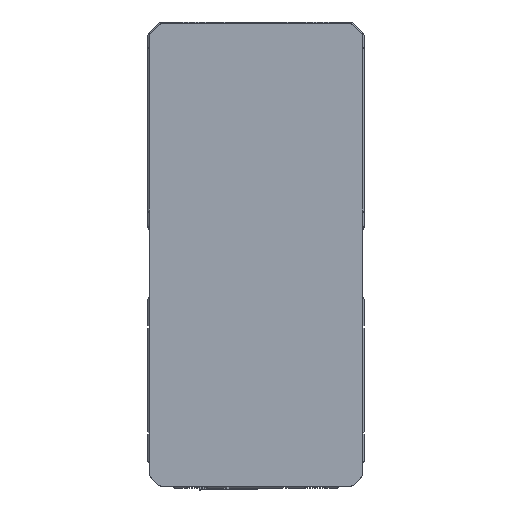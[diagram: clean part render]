
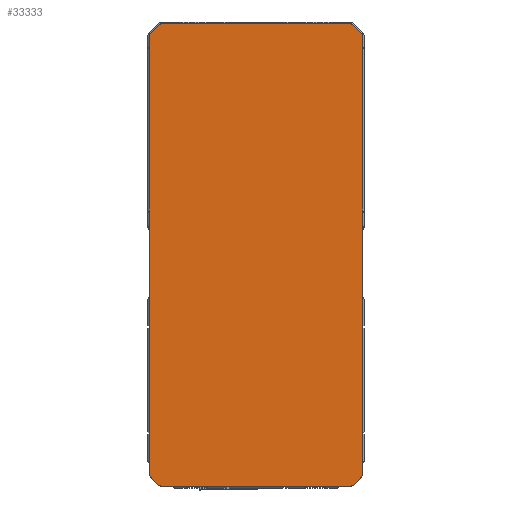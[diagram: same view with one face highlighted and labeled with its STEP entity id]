
A CAD part, top view. The second image highlights one B-rep face of the part: STEP entity #33333.
In plain terms, the highlighted planar face has unit normal (0, 0, 1).
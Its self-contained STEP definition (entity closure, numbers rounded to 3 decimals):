
#358 = AXIS2_PLACEMENT_3D ( 'NONE', #18170, #39977, #21312 ) ;
#555 = ORIENTED_EDGE ( 'NONE', *, *, #14562, .T. ) ;
#882 = CARTESIAN_POINT ( 'NONE',  ( 29.139, 31.561, 494. ) ) ;
#1141 = AXIS2_PLACEMENT_3D ( 'NONE', #37150, #18468, #40286 ) ;
#1483 = EDGE_CURVE ( 'NONE', #32467, #40147, #16552, .T. ) ;
#1715 = DIRECTION ( 'NONE',  ( 1., 0., 0. ) ) ;
#2701 = ORIENTED_EDGE ( 'NONE', *, *, #20682, .T. ) ;
#2819 = VERTEX_POINT ( 'NONE', #3590 ) ;
#2978 = ORIENTED_EDGE ( 'NONE', *, *, #13076, .T. ) ;
#3040 = VERTEX_POINT ( 'NONE', #11038 ) ;
#3586 = LINE ( 'NONE', #14091, #10879 ) ;
#3590 = CARTESIAN_POINT ( 'NONE',  ( 29.139, -106.561, 494. ) ) ;
#5162 = DIRECTION ( 'NONE',  ( 0., 0., 1. ) ) ;
#5273 = VECTOR ( 'NONE', #22670, 1000. ) ;
#6024 = CARTESIAN_POINT ( 'NONE',  ( 28.079, 32., 494. ) ) ;
#6339 = EDGE_CURVE ( 'NONE', #37011, #10517, #29163, .T. ) ;
#6520 = VERTEX_POINT ( 'NONE', #8067 ) ;
#6758 = CARTESIAN_POINT ( 'NONE',  ( 29.139, 31.561, 494. ) ) ;
#7453 = DIRECTION ( 'NONE',  ( -0.707, -0.707, 0. ) ) ;
#7611 = VECTOR ( 'NONE', #32545, 1000. ) ;
#8067 = CARTESIAN_POINT ( 'NONE',  ( -28.079, -107., 494. ) ) ;
#9096 = EDGE_CURVE ( 'NONE', #40147, #37290, #3586, .T. ) ;
#9152 = CARTESIAN_POINT ( 'NONE',  ( 30.5, 28.079, 494. ) ) ;
#9214 = CARTESIAN_POINT ( 'NONE',  ( -31.561, -104.139, 494. ) ) ;
#9435 = EDGE_LOOP ( 'NONE', ( #36574, #2978, #2701, #26755, #14494, #9847, #22151, #28818, #31237, #28825, #9764, #12918, #24670, #11175, #555, #32422 ) ) ;
#9501 = CIRCLE ( 'NONE', #22562, 1.5 ) ;
#9764 = ORIENTED_EDGE ( 'NONE', *, *, #1483, .T. ) ;
#9847 = ORIENTED_EDGE ( 'NONE', *, *, #22003, .T. ) ;
#9971 = VECTOR ( 'NONE', #16260, 1000. ) ;
#10037 = CARTESIAN_POINT ( 'NONE',  ( -28.079, 32., 494. ) ) ;
#10517 = VERTEX_POINT ( 'NONE', #6758 ) ;
#10549 = CARTESIAN_POINT ( 'NONE',  ( -31.561, 29.139, 494. ) ) ;
#10879 = VECTOR ( 'NONE', #17173, 1000. ) ;
#11038 = CARTESIAN_POINT ( 'NONE',  ( -32., -103.079, 494. ) ) ;
#11086 = DIRECTION ( 'NONE',  ( 0., 0., 1. ) ) ;
#11175 = ORIENTED_EDGE ( 'NONE', *, *, #6339, .T. ) ;
#11248 = CIRCLE ( 'NONE', #29746, 1.5 ) ;
#11504 = DIRECTION ( 'NONE',  ( 0., 0., 1. ) ) ;
#11831 = DIRECTION ( 'NONE',  ( 0., 0., 1. ) ) ;
#12185 = AXIS2_PLACEMENT_3D ( 'NONE', #30142, #11504, #33302 ) ;
#12326 = DIRECTION ( 'NONE',  ( -1., 0., 0. ) ) ;
#12725 = VERTEX_POINT ( 'NONE', #33633 ) ;
#12918 = ORIENTED_EDGE ( 'NONE', *, *, #9096, .T. ) ;
#13032 = EDGE_CURVE ( 'NONE', #30385, #3040, #33443, .T. ) ;
#13076 = EDGE_CURVE ( 'NONE', #26069, #29122, #32466, .T. ) ;
#13802 = DIRECTION ( 'NONE',  ( -1., 0., 0. ) ) ;
#14091 = CARTESIAN_POINT ( 'NONE',  ( 32., 28.079, 494. ) ) ;
#14494 = ORIENTED_EDGE ( 'NONE', *, *, #16470, .T. ) ;
#14562 = EDGE_CURVE ( 'NONE', #10517, #18940, #9501, .T. ) ;
#14965 = AXIS2_PLACEMENT_3D ( 'NONE', #29733, #11086, #32881 ) ;
#15894 = AXIS2_PLACEMENT_3D ( 'NONE', #39022, #20356, #1715 ) ;
#16260 = DIRECTION ( 'NONE',  ( 0.707, 0.707, 0. ) ) ;
#16470 = EDGE_CURVE ( 'NONE', #3040, #28337, #31397, .T. ) ;
#16552 = CIRCLE ( 'NONE', #358, 1.5 ) ;
#16578 = CARTESIAN_POINT ( 'NONE',  ( 32., 28.079, 494. ) ) ;
#16737 = CARTESIAN_POINT ( 'NONE',  ( -32., 28.079, 494. ) ) ;
#16780 = PLANE ( 'NONE',  #28867 ) ;
#17173 = DIRECTION ( 'NONE',  ( 0., 1., 0. ) ) ;
#18170 = CARTESIAN_POINT ( 'NONE',  ( 30.5, -103.079, 494. ) ) ;
#18468 = DIRECTION ( 'NONE',  ( 0., 0., 1. ) ) ;
#18940 = VERTEX_POINT ( 'NONE', #6024 ) ;
#20356 = DIRECTION ( 'NONE',  ( 0., 0., 1. ) ) ;
#20682 = EDGE_CURVE ( 'NONE', #29122, #30385, #34497, .T. ) ;
#20708 = AXIS2_PLACEMENT_3D ( 'NONE', #9152, #30967, #12326 ) ;
#20804 = CARTESIAN_POINT ( 'NONE',  ( -32., 28.079, 494. ) ) ;
#21312 = DIRECTION ( 'NONE',  ( 1., 0., 0. ) ) ;
#22003 = EDGE_CURVE ( 'NONE', #28337, #34954, #38656, .T. ) ;
#22151 = ORIENTED_EDGE ( 'NONE', *, *, #25694, .T. ) ;
#22175 = EDGE_CURVE ( 'NONE', #18940, #37209, #24509, .T. ) ;
#22562 = AXIS2_PLACEMENT_3D ( 'NONE', #30475, #11831, #33618 ) ;
#22575 = DIRECTION ( 'NONE',  ( -1., 0., 0. ) ) ;
#22670 = DIRECTION ( 'NONE',  ( -0.707, 0.707, 0. ) ) ;
#23826 = CARTESIAN_POINT ( 'NONE',  ( 28.079, -105.5, 494. ) ) ;
#24208 = LINE ( 'NONE', #29424, #7611 ) ;
#24509 = LINE ( 'NONE', #34990, #40091 ) ;
#24670 = ORIENTED_EDGE ( 'NONE', *, *, #39181, .T. ) ;
#24744 = CIRCLE ( 'NONE', #15894, 1.5 ) ;
#25176 = FACE_OUTER_BOUND ( 'NONE', #9435, .T. ) ;
#25694 = EDGE_CURVE ( 'NONE', #34954, #6520, #24744, .T. ) ;
#26069 = VERTEX_POINT ( 'NONE', #35218 ) ;
#26119 = VECTOR ( 'NONE', #38511, 1000. ) ;
#26517 = CARTESIAN_POINT ( 'NONE',  ( -29.139, -106.561, 494. ) ) ;
#26755 = ORIENTED_EDGE ( 'NONE', *, *, #13032, .T. ) ;
#26919 = DIRECTION ( 'NONE',  ( -1., 0., 0. ) ) ;
#27882 = DIRECTION ( 'NONE',  ( 0.707, -0.707, 0. ) ) ;
#28001 = CARTESIAN_POINT ( 'NONE',  ( 31.561, -104.139, 494. ) ) ;
#28337 = VERTEX_POINT ( 'NONE', #34340 ) ;
#28818 = ORIENTED_EDGE ( 'NONE', *, *, #33344, .T. ) ;
#28825 = ORIENTED_EDGE ( 'NONE', *, *, #34314, .T. ) ;
#28867 = AXIS2_PLACEMENT_3D ( 'NONE', #29288, #32426, #13802 ) ;
#29122 = VERTEX_POINT ( 'NONE', #10549 ) ;
#29163 = LINE ( 'NONE', #882, #5273 ) ;
#29288 = CARTESIAN_POINT ( 'NONE',  ( -28.079, 30.5, 494. ) ) ;
#29424 = CARTESIAN_POINT ( 'NONE',  ( -28.079, -107., 494. ) ) ;
#29733 = CARTESIAN_POINT ( 'NONE',  ( -30.5, 28.079, 494. ) ) ;
#29746 = AXIS2_PLACEMENT_3D ( 'NONE', #23826, #5162, #26919 ) ;
#29914 = CARTESIAN_POINT ( 'NONE',  ( 32., -103.079, 494. ) ) ;
#30142 = CARTESIAN_POINT ( 'NONE',  ( -30.5, -103.079, 494. ) ) ;
#30385 = VERTEX_POINT ( 'NONE', #20804 ) ;
#30475 = CARTESIAN_POINT ( 'NONE',  ( 28.079, 30.5, 494. ) ) ;
#30495 = EDGE_CURVE ( 'NONE', #37209, #26069, #40215, .T. ) ;
#30967 = DIRECTION ( 'NONE',  ( 0., 0., 1. ) ) ;
#31237 = ORIENTED_EDGE ( 'NONE', *, *, #36815, .T. ) ;
#31397 = CIRCLE ( 'NONE', #12185, 1.5 ) ;
#31510 = VECTOR ( 'NONE', #7453, 1000. ) ;
#31776 = CARTESIAN_POINT ( 'NONE',  ( 29.139, -106.561, 494. ) ) ;
#32395 = CARTESIAN_POINT ( 'NONE',  ( -31.561, 29.139, 494. ) ) ;
#32422 = ORIENTED_EDGE ( 'NONE', *, *, #22175, .T. ) ;
#32426 = DIRECTION ( 'NONE',  ( 0., 0., -1. ) ) ;
#32466 = LINE ( 'NONE', #32395, #31510 ) ;
#32467 = VERTEX_POINT ( 'NONE', #28001 ) ;
#32545 = DIRECTION ( 'NONE',  ( 1., 0., 0. ) ) ;
#32881 = DIRECTION ( 'NONE',  ( 1., 0., 0. ) ) ;
#33302 = DIRECTION ( 'NONE',  ( -1., 0., 0. ) ) ;
#33333 = ADVANCED_FACE ( 'NONE', ( #25176 ), #16780, .F. ) ;
#33344 = EDGE_CURVE ( 'NONE', #6520, #12725, #24208, .T. ) ;
#33443 = LINE ( 'NONE', #16737, #26119 ) ;
#33618 = DIRECTION ( 'NONE',  ( 1., 0., 0. ) ) ;
#33633 = CARTESIAN_POINT ( 'NONE',  ( 28.079, -107., 494. ) ) ;
#33866 = LINE ( 'NONE', #31776, #9971 ) ;
#34314 = EDGE_CURVE ( 'NONE', #2819, #32467, #33866, .T. ) ;
#34340 = CARTESIAN_POINT ( 'NONE',  ( -31.561, -104.139, 494. ) ) ;
#34479 = CIRCLE ( 'NONE', #20708, 1.5 ) ;
#34497 = CIRCLE ( 'NONE', #14965, 1.5 ) ;
#34954 = VERTEX_POINT ( 'NONE', #26517 ) ;
#34990 = CARTESIAN_POINT ( 'NONE',  ( -28.079, 32., 494. ) ) ;
#35218 = CARTESIAN_POINT ( 'NONE',  ( -29.139, 31.561, 494. ) ) ;
#36574 = ORIENTED_EDGE ( 'NONE', *, *, #30495, .T. ) ;
#36815 = EDGE_CURVE ( 'NONE', #12725, #2819, #11248, .T. ) ;
#37011 = VERTEX_POINT ( 'NONE', #40167 ) ;
#37150 = CARTESIAN_POINT ( 'NONE',  ( -28.079, 30.5, 494. ) ) ;
#37209 = VERTEX_POINT ( 'NONE', #10037 ) ;
#37290 = VERTEX_POINT ( 'NONE', #16578 ) ;
#37699 = VECTOR ( 'NONE', #27882, 1000. ) ;
#38511 = DIRECTION ( 'NONE',  ( 0., -1., 0. ) ) ;
#38656 = LINE ( 'NONE', #9214, #37699 ) ;
#39022 = CARTESIAN_POINT ( 'NONE',  ( -28.079, -105.5, 494. ) ) ;
#39181 = EDGE_CURVE ( 'NONE', #37290, #37011, #34479, .T. ) ;
#39977 = DIRECTION ( 'NONE',  ( 0., 0., 1. ) ) ;
#40091 = VECTOR ( 'NONE', #22575, 1000. ) ;
#40147 = VERTEX_POINT ( 'NONE', #29914 ) ;
#40167 = CARTESIAN_POINT ( 'NONE',  ( 31.561, 29.139, 494. ) ) ;
#40215 = CIRCLE ( 'NONE', #1141, 1.5 ) ;
#40286 = DIRECTION ( 'NONE',  ( -1., 0., 0. ) ) ;
